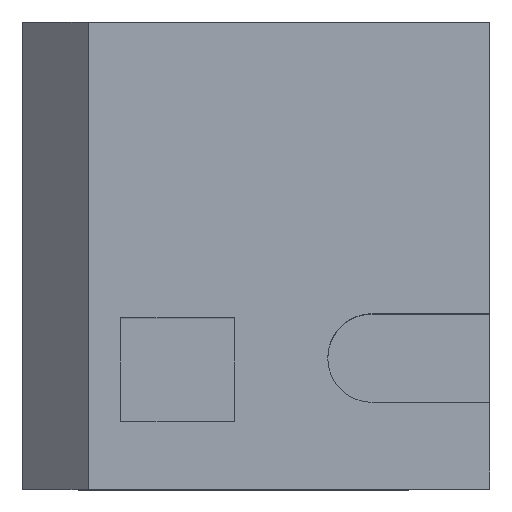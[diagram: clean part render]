
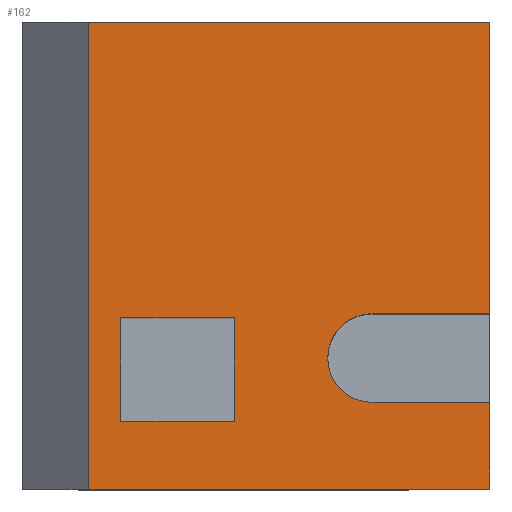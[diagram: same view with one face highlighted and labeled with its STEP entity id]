
A CAD part, top view. The second image highlights one B-rep face of the part: STEP entity #162.
In plain terms, the highlighted planar face has unit normal (0, 0, 1).
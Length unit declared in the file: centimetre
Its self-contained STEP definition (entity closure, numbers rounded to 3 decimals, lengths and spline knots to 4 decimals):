
#18 = EDGE_CURVE ( 'NONE', #705, #855, #670, .T. ) ;
#21 = VECTOR ( 'NONE', #298, 100. ) ;
#28 = LINE ( 'NONE', #776, #242 ) ;
#31 = VERTEX_POINT ( 'NONE', #702 ) ;
#35 = FACE_BOUND ( 'NONE', #58, .T. ) ;
#38 = EDGE_CURVE ( 'NONE', #703, #908, #557, .T. ) ;
#39 = VERTEX_POINT ( 'NONE', #713 ) ;
#53 = EDGE_CURVE ( 'NONE', #460, #39, #642, .T. ) ;
#55 = VERTEX_POINT ( 'NONE', #780 ) ;
#57 = FACE_OUTER_BOUND ( 'NONE', #323, .T. ) ;
#58 = EDGE_LOOP ( 'NONE', ( #115, #773, #569, #357 ) ) ;
#66 = VECTOR ( 'NONE', #587, 100. ) ;
#79 = DIRECTION ( 'NONE',  ( 1., 0., 0. ) ) ;
#81 = CARTESIAN_POINT ( 'NONE',  ( 1000., 1000., 1000. ) ) ;
#94 = VECTOR ( 'NONE', #182, 100. ) ;
#105 = DIRECTION ( 'NONE',  ( 1., 0., 0. ) ) ;
#115 = ORIENTED_EDGE ( 'NONE', *, *, #902, .F. ) ;
#116 = DIRECTION ( 'NONE',  ( 1., 0., 0. ) ) ;
#142 = CARTESIAN_POINT ( 'NONE',  ( 0., 0., 1000. ) ) ;
#160 = DIRECTION ( 'NONE',  ( 0., 1., 0. ) ) ;
#162 = ADVANCED_FACE ( 'NONE', ( #57, #35 ), #343, .T. ) ;
#163 = ORIENTED_EDGE ( 'NONE', *, *, #38, .F. ) ;
#171 = VERTEX_POINT ( 'NONE', #490 ) ;
#177 = CARTESIAN_POINT ( 'NONE',  ( 1000., 375.7536, 1000. ) ) ;
#182 = DIRECTION ( 'NONE',  ( -1., 0., 0. ) ) ;
#184 = EDGE_CURVE ( 'NONE', #55, #703, #711, .T. ) ;
#186 = DIRECTION ( 'NONE',  ( 1., 0., 0. ) ) ;
#194 = ORIENTED_EDGE ( 'NONE', *, *, #53, .T. ) ;
#200 = EDGE_CURVE ( 'NONE', #465, #55, #416, .T. ) ;
#201 = LINE ( 'NONE', #502, #21 ) ;
#234 = DIRECTION ( 'NONE',  ( 0., 1., 0. ) ) ;
#242 = VECTOR ( 'NONE', #105, 100. ) ;
#257 = CARTESIAN_POINT ( 'NONE',  ( 453.8999, 366.6125, 1000. ) ) ;
#265 = DIRECTION ( 'NONE',  ( 0., -1., 0. ) ) ;
#267 = DIRECTION ( 'NONE',  ( 1., 0., 0. ) ) ;
#269 = CARTESIAN_POINT ( 'NONE',  ( 0., 1000., 1000. ) ) ;
#282 = CARTESIAN_POINT ( 'NONE',  ( 210.5851, 366.6125, 1000. ) ) ;
#295 = LINE ( 'NONE', #282, #66 ) ;
#298 = DIRECTION ( 'NONE',  ( 0., 1., 0. ) ) ;
#305 = CARTESIAN_POINT ( 'NONE',  ( 1000., 0., 1000. ) ) ;
#319 = ORIENTED_EDGE ( 'NONE', *, *, #474, .T. ) ;
#323 = EDGE_LOOP ( 'NONE', ( #512, #319, #194, #730, #630, #826, #163, #364 ) ) ;
#335 = VECTOR ( 'NONE', #349, 100. ) ;
#338 = DIRECTION ( 'NONE',  ( 0., 0., 1. ) ) ;
#343 = PLANE ( 'NONE',  #628 ) ;
#349 = DIRECTION ( 'NONE',  ( -1., 0., 0. ) ) ;
#357 = ORIENTED_EDGE ( 'NONE', *, *, #397, .F. ) ;
#364 = ORIENTED_EDGE ( 'NONE', *, *, #184, .F. ) ;
#370 = VECTOR ( 'NONE', #234, 100. ) ;
#397 = EDGE_CURVE ( 'NONE', #31, #705, #28, .T. ) ;
#401 = VECTOR ( 'NONE', #932, 100. ) ;
#402 = EDGE_CURVE ( 'NONE', #39, #171, #621, .T. ) ;
#416 = LINE ( 'NONE', #568, #335 ) ;
#442 = VECTOR ( 'NONE', #160, 100. ) ;
#460 = VERTEX_POINT ( 'NONE', #468 ) ;
#465 = VERTEX_POINT ( 'NONE', #177 ) ;
#468 = CARTESIAN_POINT ( 'NONE',  ( 1000., 1000., 1000. ) ) ;
#474 = EDGE_CURVE ( 'NONE', #465, #460, #685, .T. ) ;
#476 = CARTESIAN_POINT ( 'NONE',  ( 748.4214, 185.9946, 1000. ) ) ;
#488 = CARTESIAN_POINT ( 'NONE',  ( 140.8486, 0., 1000. ) ) ;
#490 = CARTESIAN_POINT ( 'NONE',  ( 140.8486, 0., 1000. ) ) ;
#502 = CARTESIAN_POINT ( 'NONE',  ( 1000., 1000., 1000. ) ) ;
#512 = ORIENTED_EDGE ( 'NONE', *, *, #200, .F. ) ;
#549 = VECTOR ( 'NONE', #265, 100. ) ;
#557 = LINE ( 'NONE', #476, #854 ) ;
#568 = CARTESIAN_POINT ( 'NONE',  ( 1000., 375.7536, 1000. ) ) ;
#569 = ORIENTED_EDGE ( 'NONE', *, *, #18, .F. ) ;
#587 = DIRECTION ( 'NONE',  ( -1., 0., 0. ) ) ;
#595 = CARTESIAN_POINT ( 'NONE',  ( 210.5851, 145.6815, 1000. ) ) ;
#616 = VECTOR ( 'NONE', #79, 100. ) ;
#621 = LINE ( 'NONE', #488, #549 ) ;
#622 = EDGE_CURVE ( 'NONE', #626, #908, #201, .T. ) ;
#626 = VERTEX_POINT ( 'NONE', #305 ) ;
#628 = AXIS2_PLACEMENT_3D ( 'NONE', #633, #338, #267 ) ;
#630 = ORIENTED_EDGE ( 'NONE', *, *, #916, .T. ) ;
#633 = CARTESIAN_POINT ( 'NONE',  ( 0., 0., 1000. ) ) ;
#641 = AXIS2_PLACEMENT_3D ( 'NONE', #929, #717, #186 ) ;
#642 = LINE ( 'NONE', #269, #94 ) ;
#644 = CARTESIAN_POINT ( 'NONE',  ( 1000., 185.9946, 1000. ) ) ;
#663 = VERTEX_POINT ( 'NONE', #876 ) ;
#667 = EDGE_CURVE ( 'NONE', #855, #663, #295, .T. ) ;
#670 = LINE ( 'NONE', #954, #370 ) ;
#685 = LINE ( 'NONE', #81, #442 ) ;
#702 = CARTESIAN_POINT ( 'NONE',  ( 210.5851, 145.6815, 1000. ) ) ;
#703 = VERTEX_POINT ( 'NONE', #905 ) ;
#705 = VERTEX_POINT ( 'NONE', #895 ) ;
#711 = CIRCLE ( 'NONE', #641, 94.8795 ) ;
#713 = CARTESIAN_POINT ( 'NONE',  ( 140.8486, 1000., 1000. ) ) ;
#717 = DIRECTION ( 'NONE',  ( 0., 0., 1. ) ) ;
#730 = ORIENTED_EDGE ( 'NONE', *, *, #402, .T. ) ;
#752 = LINE ( 'NONE', #595, #401 ) ;
#773 = ORIENTED_EDGE ( 'NONE', *, *, #667, .F. ) ;
#776 = CARTESIAN_POINT ( 'NONE',  ( 210.5851, 145.6815, 1000. ) ) ;
#780 = CARTESIAN_POINT ( 'NONE',  ( 748.4214, 375.7536, 1000. ) ) ;
#807 = LINE ( 'NONE', #142, #616 ) ;
#826 = ORIENTED_EDGE ( 'NONE', *, *, #622, .T. ) ;
#854 = VECTOR ( 'NONE', #116, 100. ) ;
#855 = VERTEX_POINT ( 'NONE', #257 ) ;
#876 = CARTESIAN_POINT ( 'NONE',  ( 210.5851, 366.6125, 1000. ) ) ;
#895 = CARTESIAN_POINT ( 'NONE',  ( 453.8999, 145.6815, 1000. ) ) ;
#902 = EDGE_CURVE ( 'NONE', #663, #31, #752, .T. ) ;
#905 = CARTESIAN_POINT ( 'NONE',  ( 748.4214, 185.9946, 1000. ) ) ;
#908 = VERTEX_POINT ( 'NONE', #644 ) ;
#916 = EDGE_CURVE ( 'NONE', #171, #626, #807, .T. ) ;
#929 = CARTESIAN_POINT ( 'NONE',  ( 748.4214, 280.8741, 1000. ) ) ;
#932 = DIRECTION ( 'NONE',  ( 0., -1., 0. ) ) ;
#954 = CARTESIAN_POINT ( 'NONE',  ( 453.8999, 145.6815, 1000. ) ) ;
